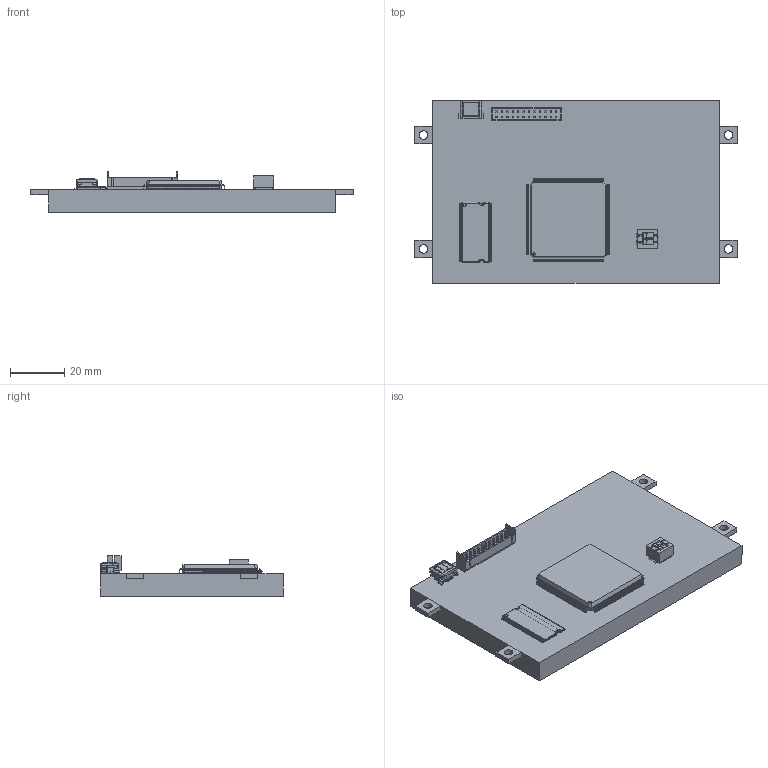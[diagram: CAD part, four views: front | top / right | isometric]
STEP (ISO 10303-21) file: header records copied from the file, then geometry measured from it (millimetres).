
FILE_DESCRIPTION(/* description */ (''),/* implementation_level */ '2;1');
FILE_NAME(/* name */ 'C:\Users\Johnny\Dropbox\Amulet 3D Step Models\MK480272CE.stp',/* time_stamp */ '2014-05-03T21:51:38-07:00',/* author */ ('jgohata'),/* organization */ (''),/* preprocessor_version */ 'ST-DEVELOPER v15.2',/* originating_system */ 'Autodesk Inventor 2014',/* authorisation */ '');
FILE_SCHEMA (('CONFIG_CONTROL_DESIGN'));
Products named in the file (1): MK480272CE
Bounding box: 118.6 x 67.2 x 14.8 mm (x, y, z)
Volume: 47793.7 mm3; surface area: 33787.8 mm2
Topology: 1 solids, 90 shells, 4643 faces, 13277 edges, 8781 vertices
Faces by surface type: plane 3268, cylinder 1296, bspline 58, cone 18, torus 3
Full cylindrical faces by diameter (mm): 1.187 x1, 3.15 x4
Entity records: 157667 total; most frequent: CARTESIAN_POINT 29481, ORIENTED_EDGE 26067, DIRECTION 24964, EDGE_CURVE 13271, LINE 10540, VECTOR 10540, VERTEX_POINT 8780, AXIS2_PLACEMENT_3D 7212
